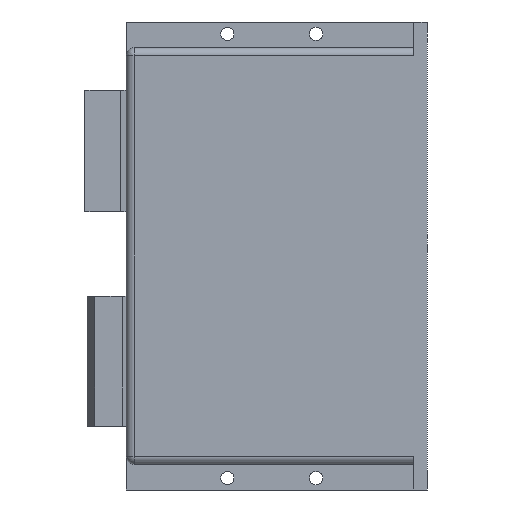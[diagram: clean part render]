
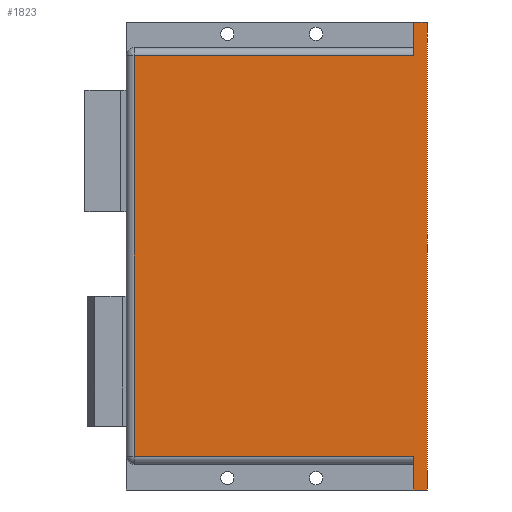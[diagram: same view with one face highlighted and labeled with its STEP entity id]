
A CAD part, left-side view. The second image highlights one B-rep face of the part: STEP entity #1823.
In plain terms, the highlighted planar face has unit normal (-1, 0, 0).
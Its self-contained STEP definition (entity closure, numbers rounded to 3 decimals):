
#26=DIRECTION('',(0.,0.,1.));
#27=VECTOR('',#26,117.8);
#28=CARTESIAN_POINT('',(-17.15,0.,-58.9));
#29=LINE('',#28,#27);
#55=DIRECTION('',(0.,1.,0.));
#56=VECTOR('',#55,3.3);
#57=CARTESIAN_POINT('',(-17.15,0.,58.9));
#58=LINE('',#57,#56);
#83=DIRECTION('',(0.,0.,-1.));
#84=VECTOR('',#83,8.45);
#85=CARTESIAN_POINT('',(-17.15,3.3,-50.45));
#86=LINE('',#85,#84);
#104=DIRECTION('',(0.,0.,-1.));
#105=VECTOR('',#104,8.45);
#106=CARTESIAN_POINT('',(-17.15,3.3,58.9));
#107=LINE('',#106,#105);
#582=DIRECTION('',(0.,1.,0.));
#583=VECTOR('',#582,70.4);
#584=CARTESIAN_POINT('',(-17.15,3.3,50.45));
#585=LINE('',#584,#583);
#586=DIRECTION('',(0.,1.,0.));
#587=VECTOR('',#586,3.3);
#588=CARTESIAN_POINT('',(-17.15,0.,-58.9));
#589=LINE('',#588,#587);
#590=DIRECTION('',(0.,-1.,0.));
#591=VECTOR('',#590,70.4);
#592=CARTESIAN_POINT('',(-17.15,73.7,-50.45));
#593=LINE('',#592,#591);
#594=DIRECTION('',(0.,0.,1.));
#595=VECTOR('',#594,100.9);
#596=CARTESIAN_POINT('',(-17.15,73.7,-50.45));
#597=LINE('',#596,#595);
#727=CARTESIAN_POINT('',(-17.15,0.,-58.9));
#728=CARTESIAN_POINT('',(-17.15,0.,58.9));
#729=VERTEX_POINT('',#727);
#730=VERTEX_POINT('',#728);
#739=CARTESIAN_POINT('',(-17.15,3.3,-58.9));
#740=VERTEX_POINT('',#739);
#741=CARTESIAN_POINT('',(-17.15,3.3,58.9));
#742=VERTEX_POINT('',#741);
#911=CARTESIAN_POINT('',(-17.15,3.3,50.45));
#912=CARTESIAN_POINT('',(-17.15,73.7,50.45));
#913=VERTEX_POINT('',#911);
#914=VERTEX_POINT('',#912);
#917=CARTESIAN_POINT('',(-17.15,73.7,-50.45));
#918=VERTEX_POINT('',#917);
#929=CARTESIAN_POINT('',(-17.15,3.3,-50.45));
#930=VERTEX_POINT('',#929);
#1805=CARTESIAN_POINT('',(-17.15,0.,-58.9));
#1806=DIRECTION('',(-1.,0.,0.));
#1807=DIRECTION('',(0.,0.,1.));
#1808=AXIS2_PLACEMENT_3D('',#1805,#1806,#1807);
#1809=PLANE('',#1808);
#1811=ORIENTED_EDGE('',*,*,#1810,.F.);
#1812=ORIENTED_EDGE('',*,*,#1104,.F.);
#1813=ORIENTED_EDGE('',*,*,#1034,.F.);
#1814=ORIENTED_EDGE('',*,*,#972,.F.);
#1816=ORIENTED_EDGE('',*,*,#1815,.T.);
#1817=ORIENTED_EDGE('',*,*,#1082,.F.);
#1819=ORIENTED_EDGE('',*,*,#1818,.F.);
#1820=ORIENTED_EDGE('',*,*,#1796,.T.);
#1821=EDGE_LOOP('',(#1811,#1812,#1813,#1814,#1816,#1817,#1819,#1820));
#1822=FACE_OUTER_BOUND('',#1821,.F.);
#1823=ADVANCED_FACE('',(#1822),#1809,.T.);
#972=EDGE_CURVE('',#729,#730,#29,.T.);
#1034=EDGE_CURVE('',#730,#742,#58,.T.);
#1082=EDGE_CURVE('',#930,#740,#86,.T.);
#1104=EDGE_CURVE('',#742,#913,#107,.T.);
#1796=EDGE_CURVE('',#918,#914,#597,.T.);
#1810=EDGE_CURVE('',#913,#914,#585,.T.);
#1815=EDGE_CURVE('',#729,#740,#589,.T.);
#1818=EDGE_CURVE('',#918,#930,#593,.T.);
